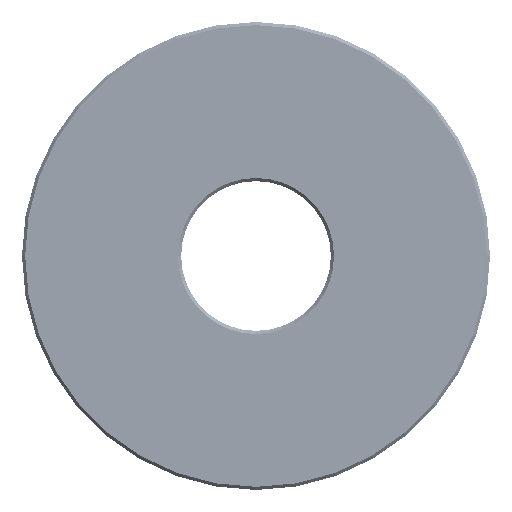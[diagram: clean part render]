
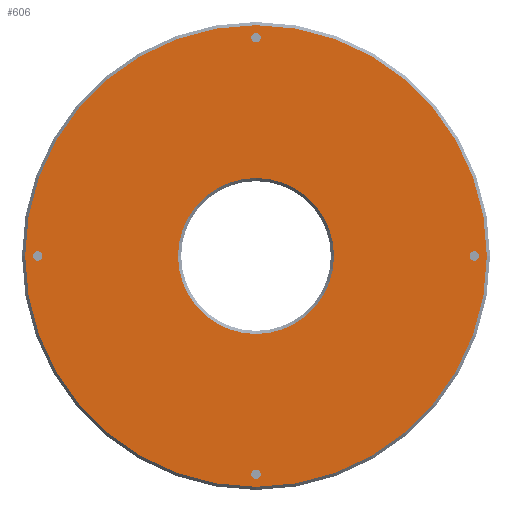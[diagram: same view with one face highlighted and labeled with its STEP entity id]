
A CAD part, front view. The second image highlights one B-rep face of the part: STEP entity #606.
In plain terms, the highlighted planar face has unit normal (0, -1, 0).
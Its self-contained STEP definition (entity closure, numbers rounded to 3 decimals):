
#6=CARTESIAN_POINT('',(70.,-12.5,0.));
#7=DIRECTION('',(0.,-1.,0.));
#8=DIRECTION('',(0.,0.,-1.));
#9=AXIS2_PLACEMENT_3D('',#6,#7,#8);
#11=CARTESIAN_POINT('',(70.,-12.5,0.));
#12=DIRECTION('',(0.,-1.,0.));
#13=DIRECTION('',(0.,0.,1.));
#14=AXIS2_PLACEMENT_3D('',#11,#12,#13);
#16=CARTESIAN_POINT('',(0.,-12.5,-70.));
#17=DIRECTION('',(0.,-1.,0.));
#18=DIRECTION('',(0.,0.,-1.));
#19=AXIS2_PLACEMENT_3D('',#16,#17,#18);
#21=CARTESIAN_POINT('',(0.,-12.5,-70.));
#22=DIRECTION('',(0.,-1.,0.));
#23=DIRECTION('',(0.,0.,1.));
#24=AXIS2_PLACEMENT_3D('',#21,#22,#23);
#26=CARTESIAN_POINT('',(-70.,-12.5,0.));
#27=DIRECTION('',(0.,-1.,0.));
#28=DIRECTION('',(0.,0.,-1.));
#29=AXIS2_PLACEMENT_3D('',#26,#27,#28);
#31=CARTESIAN_POINT('',(-70.,-12.5,0.));
#32=DIRECTION('',(0.,-1.,0.));
#33=DIRECTION('',(0.,0.,1.));
#34=AXIS2_PLACEMENT_3D('',#31,#32,#33);
#36=CARTESIAN_POINT('',(0.,-12.5,70.));
#37=DIRECTION('',(0.,-1.,0.));
#38=DIRECTION('',(0.,0.,-1.));
#39=AXIS2_PLACEMENT_3D('',#36,#37,#38);
#41=CARTESIAN_POINT('',(0.,-12.5,70.));
#42=DIRECTION('',(0.,-1.,0.));
#43=DIRECTION('',(0.,0.,1.));
#44=AXIS2_PLACEMENT_3D('',#41,#42,#43);
#46=CARTESIAN_POINT('',(0.,-12.5,
0.));
#47=DIRECTION('',(0.,1.,0.));
#48=DIRECTION('',(-1.,0.,0.));
#49=AXIS2_PLACEMENT_3D('',#46,#47,#48);
#51=CARTESIAN_POINT('',(0.,-12.5,
0.));
#52=DIRECTION('',(0.,1.,0.));
#53=DIRECTION('',(1.,0.,0.));
#54=AXIS2_PLACEMENT_3D('',#51,#52,#53);
#56=CARTESIAN_POINT('',(0.,-12.5,
0.));
#57=DIRECTION('',(0.,1.,0.));
#58=DIRECTION('',(-1.,0.,0.));
#59=AXIS2_PLACEMENT_3D('',#56,#57,#58);
#61=CARTESIAN_POINT('',(0.,-12.5,
0.));
#62=DIRECTION('',(0.,1.,0.));
#63=DIRECTION('',(1.,0.,0.));
#64=AXIS2_PLACEMENT_3D('',#61,#62,#63);
#466=CARTESIAN_POINT('',(70.,-12.5,-1.5));
#467=CARTESIAN_POINT('',(70.,-12.5,1.5));
#468=VERTEX_POINT('',#466);
#469=VERTEX_POINT('',#467);
#470=CARTESIAN_POINT('',(0.,-12.5,-71.5));
#471=CARTESIAN_POINT('',(0.,-12.5,-68.5));
#472=VERTEX_POINT('',#470);
#473=VERTEX_POINT('',#471);
#474=CARTESIAN_POINT('',(-70.,-12.5,-1.5));
#475=CARTESIAN_POINT('',(-70.,-12.5,1.5));
#476=VERTEX_POINT('',#474);
#477=VERTEX_POINT('',#475);
#478=CARTESIAN_POINT('',(0.,-12.5,68.5));
#479=CARTESIAN_POINT('',(0.,-12.5,71.5));
#480=VERTEX_POINT('',#478);
#481=VERTEX_POINT('',#479);
#534=CARTESIAN_POINT('',(-25.,-12.5,0.));
#535=CARTESIAN_POINT('',(25.,-12.5,0.));
#536=VERTEX_POINT('',#534);
#537=VERTEX_POINT('',#535);
#542=CARTESIAN_POINT('',(-74.,-12.5,
0.));
#543=CARTESIAN_POINT('',(74.,-12.5,
0.));
#544=VERTEX_POINT('',#542);
#545=VERTEX_POINT('',#543);
#566=CARTESIAN_POINT('',(0.,-12.5,0.));
#567=DIRECTION('',(0.,-1.,0.));
#568=DIRECTION('',(-1.,0.,0.));
#569=AXIS2_PLACEMENT_3D('',#566,#567,#568);
#570=PLANE('',#569);
#572=ORIENTED_EDGE('',*,*,#571,.T.);
#574=ORIENTED_EDGE('',*,*,#573,.T.);
#575=EDGE_LOOP('',(#572,#574));
#576=FACE_OUTER_BOUND('',#575,.F.);
#577=ORIENTED_EDGE('',*,*,#555,.T.);
#579=ORIENTED_EDGE('',*,*,#578,.T.);
#580=EDGE_LOOP('',(#577,#579));
#581=FACE_BOUND('',#580,.F.);
#583=ORIENTED_EDGE('',*,*,#582,.T.);
#585=ORIENTED_EDGE('',*,*,#584,.T.);
#586=EDGE_LOOP('',(#583,#585));
#587=FACE_BOUND('',#586,.F.);
#589=ORIENTED_EDGE('',*,*,#588,.T.);
#591=ORIENTED_EDGE('',*,*,#590,.T.);
#592=EDGE_LOOP('',(#589,#591));
#593=FACE_BOUND('',#592,.F.);
#595=ORIENTED_EDGE('',*,*,#594,.T.);
#597=ORIENTED_EDGE('',*,*,#596,.T.);
#598=EDGE_LOOP('',(#595,#597));
#599=FACE_BOUND('',#598,.F.);
#601=ORIENTED_EDGE('',*,*,#600,.F.);
#603=ORIENTED_EDGE('',*,*,#602,.F.);
#604=EDGE_LOOP('',(#601,#603));
#605=FACE_BOUND('',#604,.F.);
#10=CIRCLE('',#9,1.5);
#15=CIRCLE('',#14,1.5);
#20=CIRCLE('',#19,1.5);
#25=CIRCLE('',#24,1.5);
#30=CIRCLE('',#29,1.5);
#35=CIRCLE('',#34,1.5);
#40=CIRCLE('',#39,1.5);
#45=CIRCLE('',#44,1.5);
#50=CIRCLE('',#49,25.);
#55=CIRCLE('',#54,25.);
#60=CIRCLE('',#59,74.);
#65=CIRCLE('',#64,74.);
#555=EDGE_CURVE('',#468,#469,#10,.T.);
#571=EDGE_CURVE('',#544,#545,#60,.T.);
#573=EDGE_CURVE('',#545,#544,#65,.T.);
#578=EDGE_CURVE('',#469,#468,#15,.T.);
#582=EDGE_CURVE('',#472,#473,#20,.T.);
#584=EDGE_CURVE('',#473,#472,#25,.T.);
#588=EDGE_CURVE('',#476,#477,#30,.T.);
#590=EDGE_CURVE('',#477,#476,#35,.T.);
#594=EDGE_CURVE('',#480,#481,#40,.T.);
#596=EDGE_CURVE('',#481,#480,#45,.T.);
#600=EDGE_CURVE('',#536,#537,#50,.T.);
#602=EDGE_CURVE('',#537,#536,#55,.T.);
#606=ADVANCED_FACE('',(#576,#581,#587,#593,#599,#605),#570,.T.);
